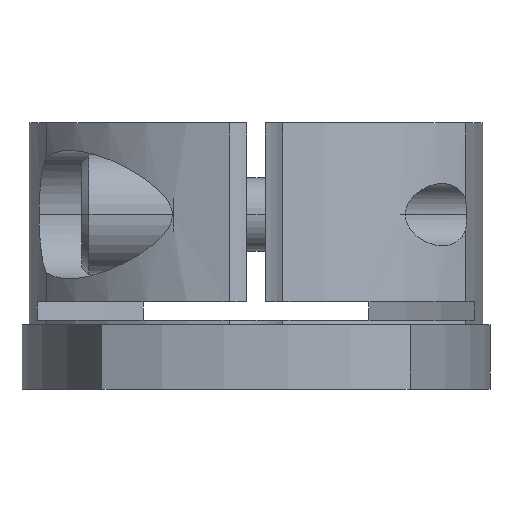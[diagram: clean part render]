
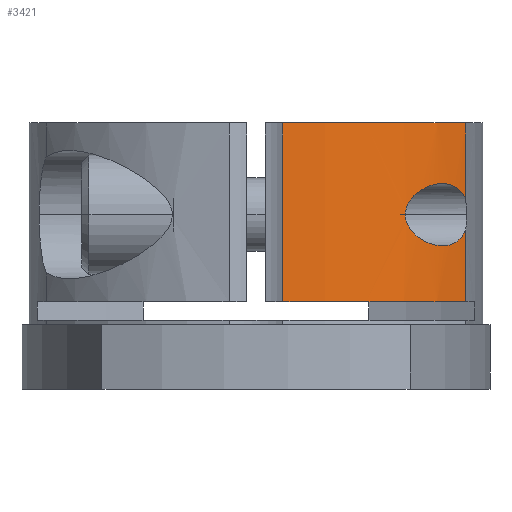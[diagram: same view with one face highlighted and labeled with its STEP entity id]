
A CAD part, front view. The second image highlights one B-rep face of the part: STEP entity #3421.
In plain terms, the highlighted cylindrical face has radius 28.5 mm (diameter 57 mm), a partial arc.
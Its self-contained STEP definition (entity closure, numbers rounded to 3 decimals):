
#777=CARTESIAN_POINT('',(22.845,-17.039,17.172));
#778=VERTEX_POINT('',#777);
#790=CARTESIAN_POINT('',(16.269,-23.4,15.5));
#791=VERTEX_POINT('',#790);
#792=CARTESIAN_POINT('',(16.269,-23.4,15.5));
#793=CARTESIAN_POINT('',(16.269,-23.4,15.75));
#794=CARTESIAN_POINT('',(16.309,-23.372,15.995));
#795=CARTESIAN_POINT('',(16.454,-23.27,16.46));
#796=CARTESIAN_POINT('',(16.559,-23.196,16.681));
#797=CARTESIAN_POINT('',(16.813,-23.013,17.091));
#798=CARTESIAN_POINT('',(16.961,-22.904,17.28));
#799=CARTESIAN_POINT('',(17.279,-22.666,17.621));
#800=CARTESIAN_POINT('',(17.448,-22.536,17.773));
#801=CARTESIAN_POINT('',(17.816,-22.247,18.062));
#802=CARTESIAN_POINT('',(18.032,-22.072,18.205));
#803=CARTESIAN_POINT('',(18.48,-21.698,18.454));
#804=CARTESIAN_POINT('',(18.713,-21.498,18.56));
#805=CARTESIAN_POINT('',(19.18,-21.083,18.731));
#806=CARTESIAN_POINT('',(19.414,-20.867,18.795));
#807=CARTESIAN_POINT('',(19.871,-20.433,18.88));
#808=CARTESIAN_POINT('',(20.094,-20.214,18.9));
#809=CARTESIAN_POINT('',(20.495,-19.806,18.9));
#810=CARTESIAN_POINT('',(20.691,-19.601,18.883));
#811=CARTESIAN_POINT('',(21.079,-19.183,18.807));
#812=CARTESIAN_POINT('',(21.271,-18.97,18.748));
#813=CARTESIAN_POINT('',(21.639,-18.549,18.583));
#814=CARTESIAN_POINT('',(21.815,-18.342,18.478));
#815=CARTESIAN_POINT('',(22.139,-17.95,18.222));
#816=CARTESIAN_POINT('',(22.288,-17.764,18.072));
#817=CARTESIAN_POINT('',(22.529,-17.456,17.765));
#818=CARTESIAN_POINT('',(22.634,-17.32,17.604));
#819=CARTESIAN_POINT('',(22.769,-17.142,17.344));
#820=CARTESIAN_POINT('',(22.808,-17.089,17.26));
#821=CARTESIAN_POINT('',(22.845,-17.039,17.172));
#822=B_SPLINE_CURVE_WITH_KNOTS('',3,(#792,#793,#794,#795,#796,#797,#798,#799,#800,#801,#802,#803,#804,#805,#806,#807,#808,#809,#810,#811,#812,#813,#814,#815,#816,#817,#818,#819,#820,#821),.UNSPECIFIED.,.F.,.U.,(4,2,2,2,2,2,2,2,2,2,2,2,2,2,4),(12.554,13.305,14.056,14.808,15.559,16.458,17.358,18.257,19.156,19.972,20.787,21.603,22.418,23.095,23.402),.UNSPECIFIED.);
#823=EDGE_CURVE('',#791,#778,#822,.T.);
#2429=CARTESIAN_POINT('',(22.845,-17.039,13.828));
#2430=VERTEX_POINT('',#2429);
#2431=CARTESIAN_POINT('',(22.845,-17.039,13.828));
#2432=CARTESIAN_POINT('',(22.825,-17.066,13.781));
#2433=CARTESIAN_POINT('',(22.805,-17.094,13.735));
#2434=CARTESIAN_POINT('',(22.702,-17.23,13.517));
#2435=CARTESIAN_POINT('',(22.61,-17.351,13.361));
#2436=CARTESIAN_POINT('',(22.381,-17.646,13.033));
#2437=CARTESIAN_POINT('',(22.229,-17.838,12.864));
#2438=CARTESIAN_POINT('',(21.894,-18.248,12.576));
#2439=CARTESIAN_POINT('',(21.711,-18.465,12.457));
#2440=CARTESIAN_POINT('',(21.327,-18.908,12.271));
#2441=CARTESIAN_POINT('',(21.125,-19.134,12.204));
#2442=CARTESIAN_POINT('',(20.714,-19.577,12.119));
#2443=CARTESIAN_POINT('',(20.506,-19.794,12.1));
#2444=CARTESIAN_POINT('',(20.072,-20.236,12.1));
#2445=CARTESIAN_POINT('',(19.826,-20.477,12.125));
#2446=CARTESIAN_POINT('',(19.323,-20.953,12.227));
#2447=CARTESIAN_POINT('',(19.065,-21.187,12.304));
#2448=CARTESIAN_POINT('',(18.297,-21.861,12.612));
#2449=CARTESIAN_POINT('',(17.793,-22.27,12.918));
#2450=CARTESIAN_POINT('',(17.227,-22.705,13.433));
#2451=CARTESIAN_POINT('',(17.087,-22.81,13.577));
#2452=CARTESIAN_POINT('',(16.825,-23.004,13.897));
#2453=CARTESIAN_POINT('',(16.703,-23.093,14.073));
#2454=CARTESIAN_POINT('',(16.498,-23.24,14.449));
#2455=CARTESIAN_POINT('',(16.414,-23.299,14.649));
#2456=CARTESIAN_POINT('',(16.3,-23.379,15.066));
#2457=CARTESIAN_POINT('',(16.269,-23.4,15.282));
#2458=CARTESIAN_POINT('',(16.269,-23.4,15.5));
#2459=B_SPLINE_CURVE_WITH_KNOTS('',3,(#2431,#2432,#2433,#2434,#2435,#2436,#2437,#2438,#2439,#2440,#2441,#2442,#2443,#2444,#2445,#2446,#2447,#2448,#2449,#2450,#2451,#2452,#2453,#2454,#2455,#2456,#2457,#2458),.UNSPECIFIED.,.F.,.U.,(4,2,2,2,2,2,2,2,2,2,2,2,2,4),(1.716,1.881,2.508,3.374,4.239,5.105,5.971,6.963,7.956,9.942,10.595,11.248,11.901,12.554),.UNSPECIFIED.);
#2460=EDGE_CURVE('',#2430,#791,#2459,.T.);
#2543=CARTESIAN_POINT('',(22.845,-17.039,25.5));
#2544=VERTEX_POINT('',#2543);
#2552=CARTESIAN_POINT('',(22.845,-17.039,17.172));
#2553=DIRECTION('',(0.0,0.0,1.0));
#2554=VECTOR('',#2553,8.328);
#2555=LINE('',#2552,#2554);
#2556=EDGE_CURVE('',#778,#2544,#2555,.T.);
#2560=CARTESIAN_POINT('',(22.845,-17.039,6.0));
#2561=VERTEX_POINT('',#2560);
#2562=CARTESIAN_POINT('',(22.845,-17.039,6.0));
#2563=DIRECTION('',(0.0,0.0,1.0));
#2564=VECTOR('',#2563,7.828);
#2565=LINE('',#2562,#2564);
#2566=EDGE_CURVE('',#2561,#2430,#2565,.T.);
#2675=CARTESIAN_POINT('',(2.935,-28.348,6.0));
#2676=VERTEX_POINT('',#2675);
#2684=CARTESIAN_POINT('',(2.935,-28.348,25.5));
#2685=VERTEX_POINT('',#2684);
#2686=CARTESIAN_POINT('',(2.935,-28.348,25.5));
#2687=DIRECTION('',(0.0,0.0,-1.0));
#2688=VECTOR('',#2687,19.5);
#2689=LINE('',#2686,#2688);
#2690=EDGE_CURVE('',#2685,#2676,#2689,.T.);
#2974=CARTESIAN_POINT('',(0.,0.,25.5));
#2975=DIRECTION('',(0.0,0.0,-1.0));
#2976=DIRECTION('',(1.0,0.0,0.0));
#2977=AXIS2_PLACEMENT_3D('',#2974,#2975,#2976);
#2978=CIRCLE('',#2977,28.5);
#2979=EDGE_CURVE('',#2544,#2685,#2978,.T.);
#3401=CARTESIAN_POINT('',(0.,0.,-3.5));
#3402=DIRECTION('',(0.0,0.0,1.0));
#3403=DIRECTION('',(1.0,0.0,0.0));
#3404=AXIS2_PLACEMENT_3D('',#3401,#3402,#3403);
#3405=CYLINDRICAL_SURFACE('',#3404,28.5);
#3406=ORIENTED_EDGE('',*,*,#2460,.T.);
#3407=ORIENTED_EDGE('',*,*,#823,.T.);
#3408=ORIENTED_EDGE('',*,*,#2556,.T.);
#3409=ORIENTED_EDGE('',*,*,#2979,.T.);
#3410=ORIENTED_EDGE('',*,*,#2690,.T.);
#3411=CARTESIAN_POINT('',(0.,0.,6.0));
#3412=DIRECTION('',(0.0,0.0,1.0));
#3413=DIRECTION('',(1.0,0.0,0.0));
#3414=AXIS2_PLACEMENT_3D('',#3411,#3412,#3413);
#3415=CIRCLE('',#3414,28.5);
#3416=EDGE_CURVE('',#2676,#2561,#3415,.T.);
#3417=ORIENTED_EDGE('',*,*,#3416,.T.);
#3418=ORIENTED_EDGE('',*,*,#2566,.T.);
#3419=EDGE_LOOP('',(#3406,#3407,#3408,#3409,#3410,#3417,#3418));
#3420=FACE_OUTER_BOUND('',#3419,.T.);
#3421=ADVANCED_FACE('',(#3420),#3405,.T.);
